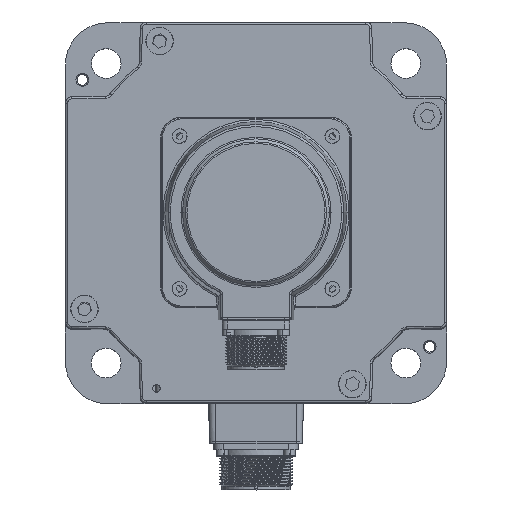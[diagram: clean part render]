
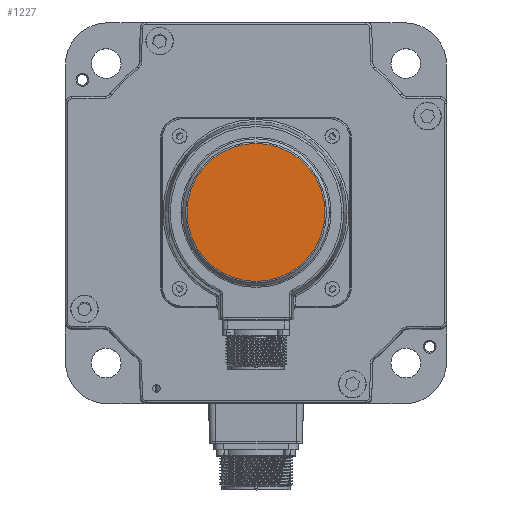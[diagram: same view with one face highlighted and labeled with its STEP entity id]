
A CAD part, top view. The second image highlights one B-rep face of the part: STEP entity #1227.
In plain terms, the highlighted planar face has unit normal (0, 0, 1).
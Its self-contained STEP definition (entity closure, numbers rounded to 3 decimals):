
#1227 = ADVANCED_FACE ( 'NONE', ( #20860 ), #25407, .T. ) ;
#11504 = CARTESIAN_POINT ( 'NONE',  ( 0., 0., 60.7 ) ) ;
#12529 = ORIENTED_EDGE ( 'NONE', *, *, #56365, .T. ) ;
#16022 = DIRECTION ( 'NONE',  ( 0., 0., 1. ) ) ;
#20322 = EDGE_LOOP ( 'NONE', ( #44897, #12529 ) ) ;
#20391 = AXIS2_PLACEMENT_3D ( 'NONE', #11504, #16022, #52619 ) ;
#20860 = FACE_OUTER_BOUND ( 'NONE', #20322, .T. ) ;
#21139 = VERTEX_POINT ( 'NONE', #41873 ) ;
#24138 = EDGE_CURVE ( 'NONE', #37413, #21139, #36979, .T. ) ;
#25407 = PLANE ( 'NONE',  #20391 ) ;
#26503 = CARTESIAN_POINT ( 'NONE',  ( 0., 0., 60.7 ) ) ;
#31388 = CARTESIAN_POINT ( 'NONE',  ( -32.586, 0., 60.7 ) ) ;
#35004 = DIRECTION ( 'NONE',  ( -1., 0., 0. ) ) ;
#36979 = CIRCLE ( 'NONE', #49431, 32.586 ) ;
#37055 = DIRECTION ( 'NONE',  ( 0., 0., 1. ) ) ;
#37413 = VERTEX_POINT ( 'NONE', #31388 ) ;
#37835 = CIRCLE ( 'NONE', #55246, 32.586 ) ;
#41605 = DIRECTION ( 'NONE',  ( -1., 0., 0. ) ) ;
#41873 = CARTESIAN_POINT ( 'NONE',  ( 32.586, 0., 60.7 ) ) ;
#44897 = ORIENTED_EDGE ( 'NONE', *, *, #24138, .T. ) ;
#49431 = AXIS2_PLACEMENT_3D ( 'NONE', #26503, #37055, #41605 ) ;
#50100 = DIRECTION ( 'NONE',  ( 0., 0., 1. ) ) ;
#52619 = DIRECTION ( 'NONE',  ( -1., 0., 0. ) ) ;
#55246 = AXIS2_PLACEMENT_3D ( 'NONE', #57987, #50100, #35004 ) ;
#56365 = EDGE_CURVE ( 'NONE', #21139, #37413, #37835, .T. ) ;
#57987 = CARTESIAN_POINT ( 'NONE',  ( 0., 0., 60.7 ) ) ;
